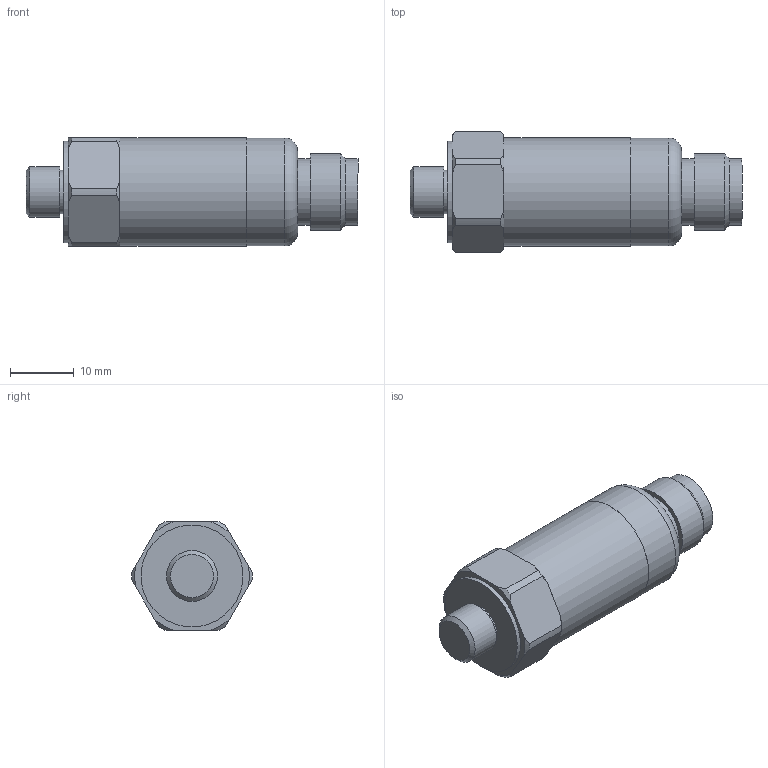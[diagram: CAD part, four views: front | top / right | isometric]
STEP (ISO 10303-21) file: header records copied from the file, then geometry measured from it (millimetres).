
FILE_DESCRIPTION(/* description */ (''),/* implementation_level */ '2;1');
FILE_NAME(/* name */ 'Z:\Engineering\Drawings\3D Library\Assemblies\Website\Premium Top\Compact\HS-170 Top M12\HS-1700105408.stp',/* time_stamp */ '2023-03-16T17:06:47+00:00',/* author */ ('Ricardo.Peneda'),/* organization */ (''),/* preprocessor_version */ 'ST-DEVELOPER v18.1',/* originating_system */ 'Autodesk Inventor 2021',/* authorisation */ '');
FILE_SCHEMA (('AUTOMOTIVE_DESIGN { 1 0 10303 214 3 1 1 }'));
Length unit declared in the file: inch
Products named in the file (1): HS-1700105408_Shrinkwrap_1
Bounding box: 52.15 x 19 x 17 mm (x, y, z)
Volume: 4592.3 mm3; surface area: 5246 mm2
Topology: 3 solids, 3 shells, 70 faces, 181 edges, 128 vertices
Faces by surface type: plane 29, cylinder 23, cone 17, torus 1
Full cylindrical faces by diameter (mm): 5 x1, 5.359 x1, 6.35 x1, 6.8 x1, 7 x2, 8 x1, 9.4 x1, 10.5 x2, 12 x1, 13.45 x1, 15.05 x1, 15.45 x1, 16 x1, 16.95 x1, 17 x1
Entity records: 2311 total; most frequent: CARTESIAN_POINT 427, DIRECTION 402, ORIENTED_EDGE 360, EDGE_CURVE 180, AXIS2_PLACEMENT_3D 175, VERTEX_POINT 128, CIRCLE 104, EDGE_LOOP 84
